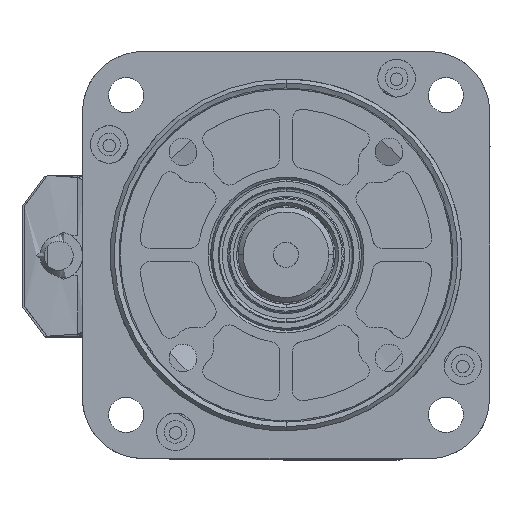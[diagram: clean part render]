
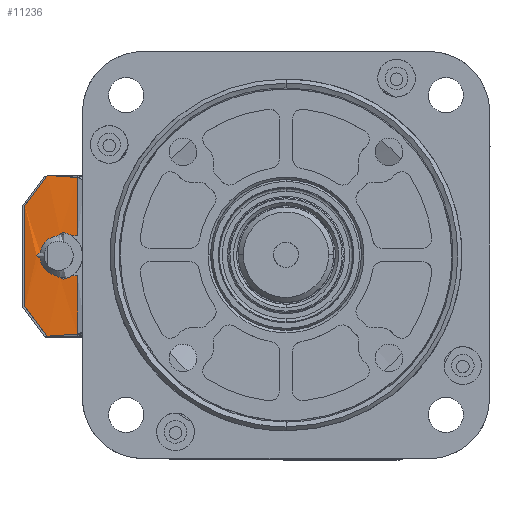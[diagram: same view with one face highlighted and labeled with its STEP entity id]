
A CAD part, top view. The second image highlights one B-rep face of the part: STEP entity #11236.
In plain terms, the highlighted free-form (B-spline) face has degree [1, 1] with [2, 2] control points.
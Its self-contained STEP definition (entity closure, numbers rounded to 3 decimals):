
#906 = CARTESIAN_POINT ( 'NONE',  ( -44.973, -9.486, 31. ) ) ;
#1096 = ORIENTED_EDGE ( 'NONE', *, *, #8302, .T. ) ;
#1122 = EDGE_CURVE ( 'NONE', #8121, #10376, #6442, .T. ) ;
#1372 = CARTESIAN_POINT ( 'NONE',  ( -47.824, -4.545, 31. ) ) ;
#2031 = CARTESIAN_POINT ( 'NONE',  ( -43.904, -1.219, 31. ) ) ;
#3442 = CARTESIAN_POINT ( 'NONE',  ( -43.927, -9.59, 31. ) ) ;
#3454 = EDGE_CURVE ( 'NONE', #10376, #26936, #10315, .T. ) ;
#3645 = EDGE_CURVE ( 'NONE', #17073, #30904, #5083, .T. ) ;
#3661 = ORIENTED_EDGE ( 'NONE', *, *, #30069, .F. ) ;
#3919 = CARTESIAN_POINT ( 'NONE',  ( -47.127, -3.133, 31. ) ) ;
#4354 = B_SPLINE_CURVE_WITH_KNOTS ( 'NONE', 1,
 ( #22877, #7750 ),
 .UNSPECIFIED., .F., .F.,
 ( 2, 2 ),
 ( 0., 1. ),
 .UNSPECIFIED. ) ;
#4394 = ORIENTED_EDGE ( 'NONE', *, *, #18312, .F. ) ;
#5083 = B_SPLINE_CURVE_WITH_KNOTS ( 'NONE', 1,
 ( #25144, #22623 ),
 .UNSPECIFIED., .F., .F.,
 ( 2, 2 ),
 ( 0.083, 1. ),
 .UNSPECIFIED. ) ;
#5752 = CARTESIAN_POINT ( 'NONE',  ( -41.615, -1.59, 31. ) ) ;
#5769 = CARTESIAN_POINT ( 'NONE',  ( -43.904, -9.961, 31. ) ) ;
#5968 = CARTESIAN_POINT ( 'NONE',  ( -46.384, -8.79, 31. ) ) ;
#6369 = B_SPLINE_CURVE_WITH_KNOTS ( 'NONE', 1,
 ( #28225, #15717 ),
 .UNSPECIFIED., .F., .F.,
 ( 2, 2 ),
 ( 0., 0.34 ),
 .UNSPECIFIED. ) ;
#6436 = CARTESIAN_POINT ( 'NONE',  ( -45.943, -2.095, 31. ) ) ;
#6442 = B_SPLINE_CURVE_WITH_KNOTS ( 'NONE', 3,
 ( #3442, #18438, #906, #20964, #5968, #23471, #8462, #26033, #10965, #28532 ),
 .UNSPECIFIED., .F., .F.,
 ( 4, 2, 2, 2, 4 ),
 ( 1.571, 1.963, 2.356, 2.749, 3.142 ),
 .UNSPECIFIED. ) ;
#6557 = EDGE_CURVE ( 'NONE', #17073, #15294, #4354, .T. ) ;
#7015 = CARTESIAN_POINT ( 'NONE',  ( -40.427, -9.59, 31. ) ) ;
#7080 = CARTESIAN_POINT ( 'NONE',  ( -50.927, 4.41, 31. ) ) ;
#7372 = CARTESIAN_POINT ( 'NONE',  ( -43.927, -9.59, 31. ) ) ;
#7750 = CARTESIAN_POINT ( 'NONE',  ( -46.427, -21.59, 31. ) ) ;
#7888 = CARTESIAN_POINT ( 'NONE',  ( -41.615, -9.59, 31. ) ) ;
#8121 = VERTEX_POINT ( 'NONE', #5769 ) ;
#8302 = EDGE_CURVE ( 'NONE', #26936, #26207, #24209, .T. ) ;
#8462 = CARTESIAN_POINT ( 'NONE',  ( -47.422, -7.606, 31. ) ) ;
#8931 = CARTESIAN_POINT ( 'NONE',  ( -44.452, -1.59, 31. ) ) ;
#9517 = CARTESIAN_POINT ( 'NONE',  ( -50.927, 4.41, 31. ) ) ;
#9592 = CARTESIAN_POINT ( 'NONE',  ( -40.427, -1.59, 31. ) ) ;
#9632 = ORIENTED_EDGE ( 'NONE', *, *, #26121, .F. ) ;
#9752 = VERTEX_POINT ( 'NONE', #7080 ) ;
#10235 = CARTESIAN_POINT ( 'NONE',  ( -40.427, -1.59, 31. ) ) ;
#10243 = B_SPLINE_CURVE_WITH_KNOTS ( 'NONE', 1,
 ( #21059, #11165 ),
 .UNSPECIFIED., .F., .F.,
 ( 2, 2 ),
 ( 0.66, 1. ),
 .UNSPECIFIED. ) ;
#10315 = B_SPLINE_CURVE_WITH_KNOTS ( 'NONE', 3,
 ( #13846, #28904, #1372, #18919, #3919, #21445, #6436, #23962, #8931, #26495 ),
 .UNSPECIFIED., .F., .F.,
 ( 4, 2, 2, 2, 4 ),
 ( 3.142, 3.534, 3.927, 4.32, 4.712 ),
 .UNSPECIFIED. ) ;
#10323 = EDGE_CURVE ( 'NONE', #27380, #31308, #22351, .T. ) ;
#10376 = VERTEX_POINT ( 'NONE', #23437 ) ;
#10965 = CARTESIAN_POINT ( 'NONE',  ( -47.927, -6.115, 31. ) ) ;
#11165 = CARTESIAN_POINT ( 'NONE',  ( -40.427, -1.59, 31. ) ) ;
#11236 = ADVANCED_FACE ( 'NONE', ( #20132 ), #22910, .F. ) ;
#11271 = B_SPLINE_CURVE_WITH_KNOTS ( 'NONE', 1,
 ( #21810, #29601 ),
 .UNSPECIFIED., .F., .F.,
 ( 2, 2 ),
 ( 0., 1. ),
 .UNSPECIFIED. ) ;
#11701 = ORIENTED_EDGE ( 'NONE', *, *, #28837, .T. ) ;
#11817 = CARTESIAN_POINT ( 'NONE',  ( -40.427, -21.59, 31. ) ) ;
#12001 = CARTESIAN_POINT ( 'NONE',  ( -50.927, -15.59, 31. ) ) ;
#12282 = CARTESIAN_POINT ( 'NONE',  ( -41.615, -1.59, 31. ) ) ;
#12488 = ORIENTED_EDGE ( 'NONE', *, *, #13727, .T. ) ;
#12725 = CARTESIAN_POINT ( 'NONE',  ( -50.927, 4.41, 31. ) ) ;
#13541 = B_SPLINE_CURVE_WITH_KNOTS ( 'NONE', 1,
 ( #9592, #24737 ),
 .UNSPECIFIED., .F., .F.,
 ( 2, 2 ),
 ( 0., 0.917 ),
 .UNSPECIFIED. ) ;
#13727 = EDGE_CURVE ( 'NONE', #14169, #8121, #22704, .T. ) ;
#13846 = CARTESIAN_POINT ( 'NONE',  ( -47.927, -5.59, 31. ) ) ;
#14000 = CARTESIAN_POINT ( 'NONE',  ( -40.427, -21.172, 30.582 ) ) ;
#14169 = VERTEX_POINT ( 'NONE', #7888 ) ;
#14291 = B_SPLINE_CURVE_WITH_KNOTS ( 'NONE', 1,
 ( #12001, #9517 ),
 .UNSPECIFIED., .F., .F.,
 ( 2, 2 ),
 ( 0., 1. ),
 .UNSPECIFIED. ) ;
#14690 = CARTESIAN_POINT ( 'NONE',  ( -41.615, -9.59, 31. ) ) ;
#14816 = CARTESIAN_POINT ( 'NONE',  ( -43.927, -1.59, 31. ) ) ;
#15294 = VERTEX_POINT ( 'NONE', #20289 ) ;
#15376 = EDGE_CURVE ( 'NONE', #30904, #14169, #6369, .T. ) ;
#15460 = CARTESIAN_POINT ( 'NONE',  ( -50.927, -15.59, 31. ) ) ;
#15717 = CARTESIAN_POINT ( 'NONE',  ( -41.615, -9.59, 31. ) ) ;
#17073 = VERTEX_POINT ( 'NONE', #14000 ) ;
#17373 = CARTESIAN_POINT ( 'NONE',  ( -40.427, 9.992, 30.582 ) ) ;
#18188 = CARTESIAN_POINT ( 'NONE',  ( -46.427, 10.41, 31. ) ) ;
#18312 = EDGE_CURVE ( 'NONE', #15294, #25406, #11271, .T. ) ;
#18438 = CARTESIAN_POINT ( 'NONE',  ( -44.452, -9.59, 31. ) ) ;
#18919 = CARTESIAN_POINT ( 'NONE',  ( -47.422, -3.574, 31. ) ) ;
#19162 = ORIENTED_EDGE ( 'NONE', *, *, #6557, .F. ) ;
#20132 = FACE_OUTER_BOUND ( 'NONE', #31409, .T. ) ;
#20189 = CARTESIAN_POINT ( 'NONE',  ( -46.427, 10.41, 31. ) ) ;
#20289 = CARTESIAN_POINT ( 'NONE',  ( -46.427, -21.59, 31. ) ) ;
#20964 = CARTESIAN_POINT ( 'NONE',  ( -45.943, -9.084, 31. ) ) ;
#21059 = CARTESIAN_POINT ( 'NONE',  ( -41.615, -1.59, 31. ) ) ;
#21445 = CARTESIAN_POINT ( 'NONE',  ( -46.384, -2.39, 31. ) ) ;
#21810 = CARTESIAN_POINT ( 'NONE',  ( -46.427, -21.59, 31. ) ) ;
#21825 = CARTESIAN_POINT ( 'NONE',  ( -50.927, -21.59, 31. ) ) ;
#22035 = VERTEX_POINT ( 'NONE', #10235 ) ;
#22292 = ORIENTED_EDGE ( 'NONE', *, *, #3454, .T. ) ;
#22351 = B_SPLINE_CURVE_WITH_KNOTS ( 'NONE', 1,
 ( #18188, #25653 ),
 .UNSPECIFIED., .F., .F.,
 ( 2, 2 ),
 ( 0., 1. ),
 .UNSPECIFIED. ) ;
#22623 = CARTESIAN_POINT ( 'NONE',  ( -40.427, -9.59, 31. ) ) ;
#22704 = B_SPLINE_CURVE_WITH_KNOTS ( 'NONE', 1,
 ( #14690, #7372 ),
 .UNSPECIFIED., .F., .F.,
 ( 2, 2 ),
 ( 0.34, 1. ),
 .UNSPECIFIED. ) ;
#22877 = CARTESIAN_POINT ( 'NONE',  ( -40.427, -21.59, 31. ) ) ;
#22910 = B_SPLINE_SURFACE_WITH_KNOTS ( 'NONE', 1, 1, ( 
 ( #24338, #21825 ),
 ( #26882, #11817 ) ),
 .UNSPECIFIED., .F., .F., .F.,
 ( 2, 2 ),
 ( 2, 2 ),
 ( 0., 1. ),
 ( 0., 1. ),
 .UNSPECIFIED. ) ;
#23437 = CARTESIAN_POINT ( 'NONE',  ( -48.578, -5.59, 31.434 ) ) ;
#23471 = CARTESIAN_POINT ( 'NONE',  ( -47.127, -8.047, 31. ) ) ;
#23962 = CARTESIAN_POINT ( 'NONE',  ( -44.973, -1.693, 31. ) ) ;
#24209 = B_SPLINE_CURVE_WITH_KNOTS ( 'NONE', 1,
 ( #14816, #12282 ),
 .UNSPECIFIED., .F., .F.,
 ( 2, 2 ),
 ( 0., 0.66 ),
 .UNSPECIFIED. ) ;
#24338 = CARTESIAN_POINT ( 'NONE',  ( -50.927, 10.41, 31. ) ) ;
#24737 = CARTESIAN_POINT ( 'NONE',  ( -40.427, 9.41, 31. ) ) ;
#25144 = CARTESIAN_POINT ( 'NONE',  ( -40.427, -20.59, 31. ) ) ;
#25406 = VERTEX_POINT ( 'NONE', #15460 ) ;
#25653 = CARTESIAN_POINT ( 'NONE',  ( -40.427, 10.41, 31. ) ) ;
#26033 = CARTESIAN_POINT ( 'NONE',  ( -47.824, -6.635, 31. ) ) ;
#26121 = EDGE_CURVE ( 'NONE', #9752, #27380, #29841, .T. ) ;
#26207 = VERTEX_POINT ( 'NONE', #5752 ) ;
#26495 = CARTESIAN_POINT ( 'NONE',  ( -43.927, -1.59, 31. ) ) ;
#26882 = CARTESIAN_POINT ( 'NONE',  ( -40.427, 10.41, 31. ) ) ;
#26936 = VERTEX_POINT ( 'NONE', #2031 ) ;
#27380 = VERTEX_POINT ( 'NONE', #28996 ) ;
#28225 = CARTESIAN_POINT ( 'NONE',  ( -40.427, -9.59, 31. ) ) ;
#28232 = EDGE_CURVE ( 'NONE', #22035, #31308, #13541, .T. ) ;
#28532 = CARTESIAN_POINT ( 'NONE',  ( -47.927, -5.59, 31. ) ) ;
#28837 = EDGE_CURVE ( 'NONE', #26207, #22035, #10243, .T. ) ;
#28904 = CARTESIAN_POINT ( 'NONE',  ( -47.927, -5.065, 31. ) ) ;
#28996 = CARTESIAN_POINT ( 'NONE',  ( -46.427, 10.41, 31. ) ) ;
#29601 = CARTESIAN_POINT ( 'NONE',  ( -50.927, -15.59, 31. ) ) ;
#29841 = B_SPLINE_CURVE_WITH_KNOTS ( 'NONE', 1,
 ( #12725, #20189 ),
 .UNSPECIFIED., .F., .F.,
 ( 2, 2 ),
 ( 0., 1. ),
 .UNSPECIFIED. ) ;
#30069 = EDGE_CURVE ( 'NONE', #25406, #9752, #14291, .T. ) ;
#30458 = ORIENTED_EDGE ( 'NONE', *, *, #15376, .T. ) ;
#30592 = ORIENTED_EDGE ( 'NONE', *, *, #10323, .F. ) ;
#30904 = VERTEX_POINT ( 'NONE', #7015 ) ;
#31081 = ORIENTED_EDGE ( 'NONE', *, *, #28232, .T. ) ;
#31308 = VERTEX_POINT ( 'NONE', #17373 ) ;
#31409 = EDGE_LOOP ( 'NONE', ( #1096, #11701, #31081, #30592, #9632, #3661, #4394, #19162, #32179, #30458, #12488, #32476, #22292 ) ) ;
#32179 = ORIENTED_EDGE ( 'NONE', *, *, #3645, .T. ) ;
#32476 = ORIENTED_EDGE ( 'NONE', *, *, #1122, .T. ) ;
